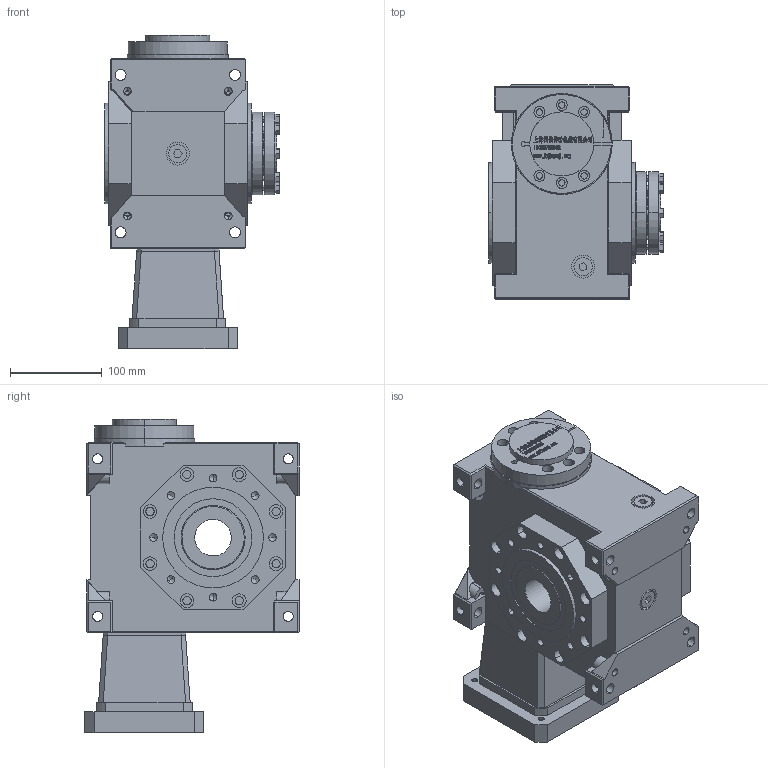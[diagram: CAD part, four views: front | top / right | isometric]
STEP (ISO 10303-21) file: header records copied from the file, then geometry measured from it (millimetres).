
FILE_DESCRIPTION (( 'STEP AP203' ), '1' );
FILE_NAME ('FXLB075-(5~90)-C1-24-110-145-M8.step', '2022-11-06T06:50:13', ( '' ), ( '' ), 'SwSTEP 2.0', 'SolidWorks 2020', '' );
FILE_SCHEMA (( 'CONFIG_CONTROL_DESIGN' ));
Length unit declared in the file: millimetre
Products named in the file (9): JDLB075-ST105________1.step; ______BD68-73.3-24-24____.step; JDLB075-C1______-50-90-25.step; JDLB075-C1________40.step; FXLB075-(5~90)-C1-24-110-145-M8.step; 錨璃377^FXLB075-(5~90)-C1-24-110-145-M8; FXLB075-(5~90)-C1-24-110-145-M8; ST130-110-145-M8____________.step; JDLB075-CR____.step
Assembly tree (8 placements, depth 3):
  FXLB075-(5~90)-C1-24-110-145-M8
    FXLB075-(5~90)-C1-24-110-145-M8.step
      JDLB075-CR____.step
      JDLB075-C1________40.step
      JDLB075-ST105________1.step
      ST130-110-145-M8____________.step
      JDLB075-C1______-50-90-25.step
      ______BD68-73.3-24-24____.step
    錨璃377^FXLB075-(5~90)-C1-24-110-145-M8
Bounding box: 191 x 234 x 342.2 mm (x, y, z)
Volume: 7027002.8 mm3; surface area: 645933.6 mm2
Topology: 85 solids, 85 shells, 2831 faces, 7345 edges, 4792 vertices
Faces by surface type: plane 1622, bspline 572, cylinder 495, cone 110, torus 32
Entity records: 117083 total; most frequent: CARTESIAN_POINT 50121, ORIENTED_EDGE 14570, DIRECTION 11693, EDGE_CURVE 7285, VECTOR 4935, LINE 4935, VERTEX_POINT 4792, AXIS2_PLACEMENT_3D 3379
